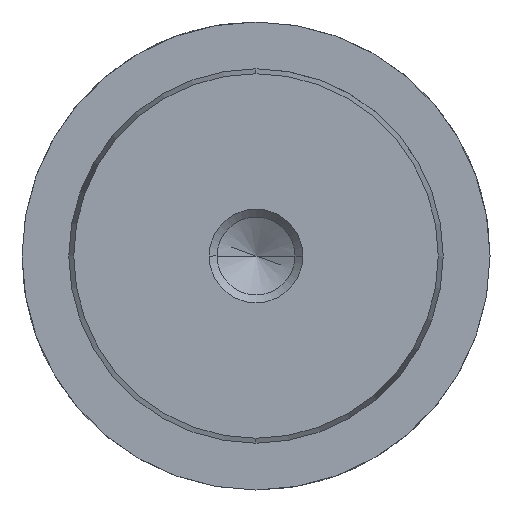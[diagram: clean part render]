
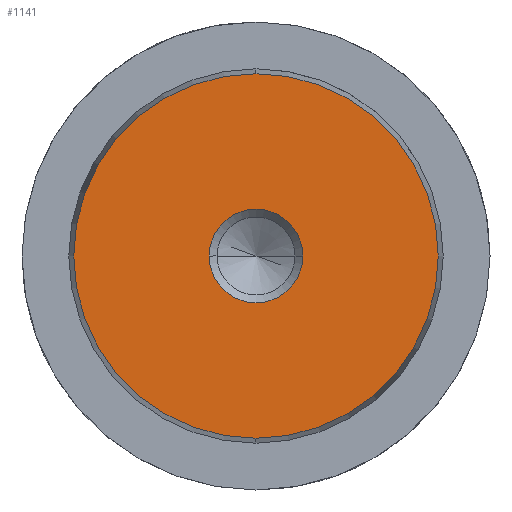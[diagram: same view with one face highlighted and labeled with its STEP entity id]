
A CAD part, left-side view. The second image highlights one B-rep face of the part: STEP entity #1141.
In plain terms, the highlighted planar face has unit normal (-1, 0, 0).
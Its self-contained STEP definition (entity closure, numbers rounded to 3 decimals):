
#1055=CARTESIAN_POINT('Vertex',(0.,0.,-15.578)) ;
#1058=CARTESIAN_POINT('Axis2P3D Location',(0.,0.,0.)) ;
#1062=CARTESIAN_POINT('Vertex',(0.,15.578,0.)) ;
#1065=CARTESIAN_POINT('Axis2P3D Location',(0.,0.,0.)) ;
#1069=CARTESIAN_POINT('Vertex',(0.,0.,15.578)) ;
#1091=CARTESIAN_POINT('Axis2P3D Location',(0.,0.,0.)) ;
#1095=CARTESIAN_POINT('Vertex',(0.,-15.578,0.)) ;
#1098=CARTESIAN_POINT('Axis2P3D Location',(0.,0.,0.)) ;
#1112=CARTESIAN_POINT('Axis2P3D Location',(0.,0.,0.)) ;
#1123=CARTESIAN_POINT('Axis2P3D Location',(0.,0.,0.)) ;
#1127=CARTESIAN_POINT('Vertex',(0.,4.,0.)) ;
#1129=CARTESIAN_POINT('Vertex',(0.,-4.,0.)) ;
#1132=CARTESIAN_POINT('Axis2P3D Location',(0.,0.,0.)) ;
#1059=DIRECTION('Axis2P3D Direction',(1.,-0.,0.)) ;
#1066=DIRECTION('Axis2P3D Direction',(1.,-0.,0.)) ;
#1092=DIRECTION('Axis2P3D Direction',(1.,0.,-0.)) ;
#1099=DIRECTION('Axis2P3D Direction',(1.,0.,-0.)) ;
#1113=DIRECTION('Axis2P3D Direction',(1.,0.,-0.)) ;
#1114=DIRECTION('Axis2P3D XDirection',(-0.,0.,-1.)) ;
#1124=DIRECTION('Axis2P3D Direction',(1.,0.,-0.)) ;
#1133=DIRECTION('Axis2P3D Direction',(1.,0.,-0.)) ;
#1060=AXIS2_PLACEMENT_3D('Circle Axis2P3D',#1058,#1059,$) ;
#1067=AXIS2_PLACEMENT_3D('Circle Axis2P3D',#1065,#1066,$) ;
#1093=AXIS2_PLACEMENT_3D('Circle Axis2P3D',#1091,#1092,$) ;
#1100=AXIS2_PLACEMENT_3D('Circle Axis2P3D',#1098,#1099,$) ;
#1115=AXIS2_PLACEMENT_3D('Plane Axis2P3D',#1112,#1113,#1114) ;
#1125=AXIS2_PLACEMENT_3D('Circle Axis2P3D',#1123,#1124,$) ;
#1134=AXIS2_PLACEMENT_3D('Circle Axis2P3D',#1132,#1133,$) ;
#1118=ORIENTED_EDGE('',*,*,#1064,.F.) ;
#1119=ORIENTED_EDGE('',*,*,#1102,.F.) ;
#1120=ORIENTED_EDGE('',*,*,#1097,.F.) ;
#1121=ORIENTED_EDGE('',*,*,#1071,.F.) ;
#1138=ORIENTED_EDGE('',*,*,#1131,.T.) ;
#1139=ORIENTED_EDGE('',*,*,#1136,.T.) ;
#1140=FACE_BOUND('',#1137,.T.) ;
#1141=ADVANCED_FACE('719-32x140',(#1122,#1140),#1116,.F.) ;
#1061=CIRCLE('generated circle',#1060,15.578) ;
#1068=CIRCLE('generated circle',#1067,15.578) ;
#1094=CIRCLE('generated circle',#1093,15.578) ;
#1101=CIRCLE('generated circle',#1100,15.578) ;
#1126=CIRCLE('generated circle',#1125,4.) ;
#1135=CIRCLE('generated circle',#1134,4.) ;
#1064=EDGE_CURVE('',#1056,#1063,#1061,.T.) ;
#1071=EDGE_CURVE('',#1063,#1070,#1068,.T.) ;
#1097=EDGE_CURVE('',#1070,#1096,#1094,.T.) ;
#1102=EDGE_CURVE('',#1096,#1056,#1101,.T.) ;
#1131=EDGE_CURVE('',#1128,#1130,#1126,.T.) ;
#1136=EDGE_CURVE('',#1130,#1128,#1135,.T.) ;
#1117=EDGE_LOOP('',(#1118,#1119,#1120,#1121)) ;
#1137=EDGE_LOOP('',(#1138,#1139)) ;
#1122=FACE_OUTER_BOUND('',#1117,.T.) ;
#1116=PLANE('Plane',#1115) ;
#1056=VERTEX_POINT('',#1055) ;
#1063=VERTEX_POINT('',#1062) ;
#1070=VERTEX_POINT('',#1069) ;
#1096=VERTEX_POINT('',#1095) ;
#1128=VERTEX_POINT('',#1127) ;
#1130=VERTEX_POINT('',#1129) ;
